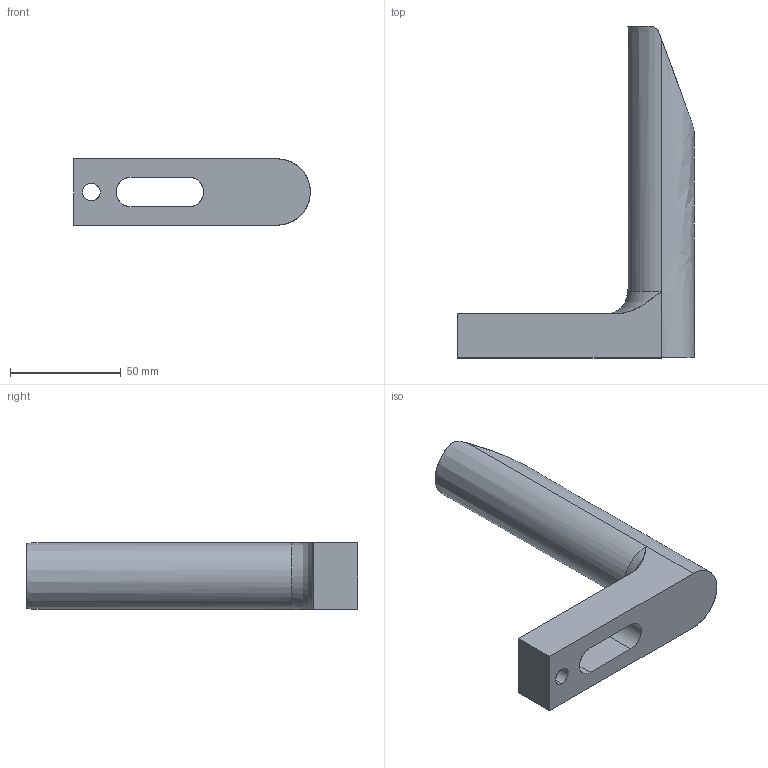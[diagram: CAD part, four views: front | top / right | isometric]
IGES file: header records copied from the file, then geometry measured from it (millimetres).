
Start section: START RECORD GO HERE.
Global section: file name: 702-5.igs; native system: DASSAULT SYSTEMES CATIA V5 R20 - www.3ds.com; preprocessor: CATIA Version 5 Release 20 ; author: Utente; organization: NB04-ASUS; date: 20200410.182947; units: millimetre
Bounding box: 107 x 150 x 30 mm (x, y, z)
Surface area: 24162.5 mm2 (no closed solid volume)
Topology: 0 solids, 0 shells, 18 faces, 95 edges, 95 vertices
Faces by surface type: revolution 9, extrusion 9
